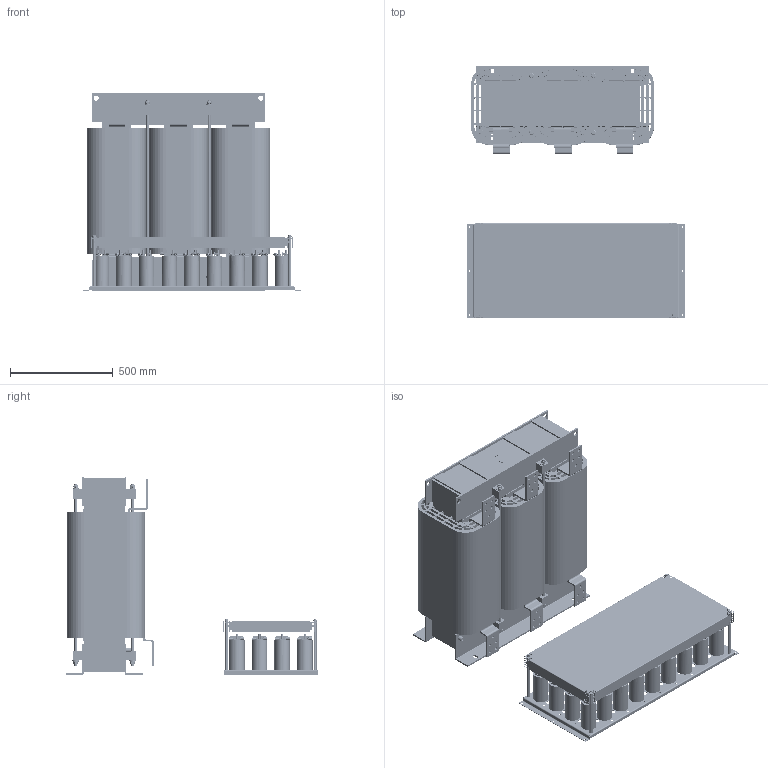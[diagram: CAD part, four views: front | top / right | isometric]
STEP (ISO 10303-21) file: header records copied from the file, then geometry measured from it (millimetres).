
FILE_DESCRIPTION(/* description */ ('raw material description','CAx-IF Rec.Pracs.---Representation and Presentation of Product Manufacturing Information (PMI)---3.8---2014-02-18'),/* implementation_level */ '2;1');
FILE_NAME(/* name */ 'C:\Users\Oliver.Volic\Desktop\FN5040HV-1320-99.stp',/* time_stamp */ '2020-02-19T14:05:22+01:00',/* author */ ('Oliver.Volic'),/* organization */ ('Schaffner EMV AG'),/* preprocessor_version */ 'ST-DEVELOPER v16.5',/* originating_system */ 'Autodesk Inventor 2017',/* authorisation */ '');
FILE_SCHEMA (('AP242_MANAGED_MODEL_BASED_3D_ENGINEERING_MIM_LF { 1 0 10303 442 1 1 4 }'));
Products named in the file (1): FN5040HV-1320-99
Bounding box: 1055 x 1229.3 x 961 mm (x, y, z)
Volume: 213095256.5 mm3; surface area: 20676562.5 mm2
Topology: 78 solids, 90 shells, 10313 faces, 27379 edges, 17865 vertices
Faces by surface type: plane 4883, cylinder 3253, bspline 1239, torus 550, cone 388
Full cylindrical faces by diameter (mm): 7.665 x8, 8 x8, 8.5 x278, 9 x46, 10 x76, 10.5 x72, 11.441 x1, 12 x279, 12.611 x4, 13 x36, 13.5 x30, 14 x12, 15 x12, 16 x8, 18 x4, 22 x1, 25 x73, 28 x8, 35 x8, 75 x36
Entity records: 359460 total; most frequent: CARTESIAN_POINT 101764, ORIENTED_EDGE 51792, DIRECTION 48277, EDGE_CURVE 25858, VERTEX_POINT 17463, AXIS2_PLACEMENT_3D 16783, LINE 14711, VECTOR 14711
